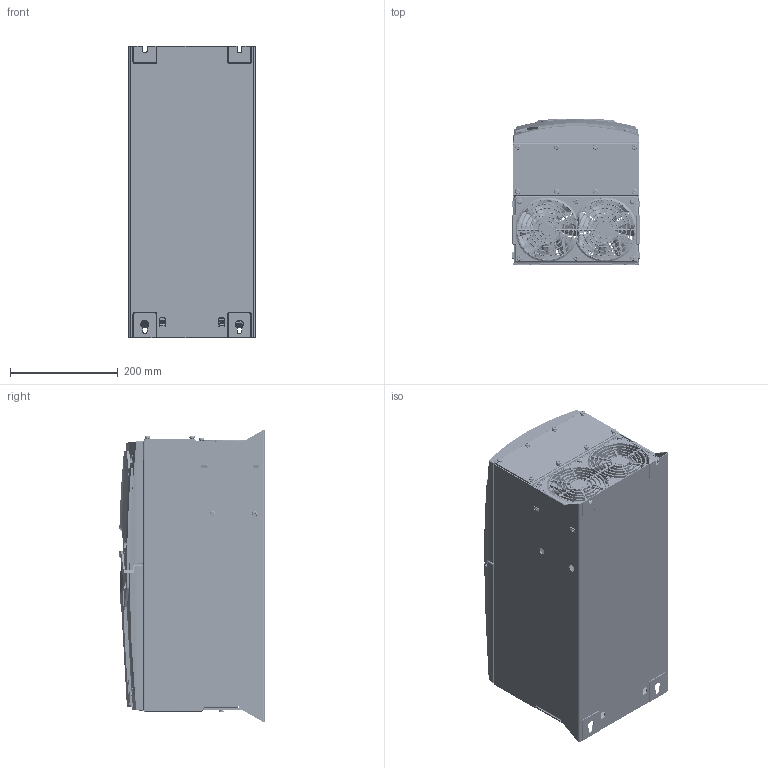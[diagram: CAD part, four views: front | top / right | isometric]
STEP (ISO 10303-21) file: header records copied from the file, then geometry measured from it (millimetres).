
FILE_DESCRIPTION (( 'STEP AP203' ), '1' );
FILE_NAME ('P2.IP55.S5.TFT.Closed.STEP', '2021-12-14T16:25:49', ( '' ), ( '' ), 'SwSTEP 2.0', 'SolidWorks 2021', '' );
FILE_SCHEMA (( 'CONFIG_CONTROL_DESIGN' ));
Products named in the file (1): P2.IP55.S5.TFT.Closed
Bounding box: 236.99 x 270.87 x 540 mm (x, y, z)
Volume: 20304286.9 mm3; surface area: 1977467.6 mm2
Topology: 1 solids, 63 shells, 8689 faces, 22996 edges, 14648 vertices
Faces by surface type: plane 4190, bspline 1815, cylinder 1716, torus 477, cone 424, sphere 67
Entity records: 408345 total; most frequent: CARTESIAN_POINT 208154, ORIENTED_EDGE 45870, DIRECTION 35139, EDGE_CURVE 22935, VERTEX_POINT 14648, VECTOR 11961, LINE 11961, AXIS2_PLACEMENT_3D 11589
